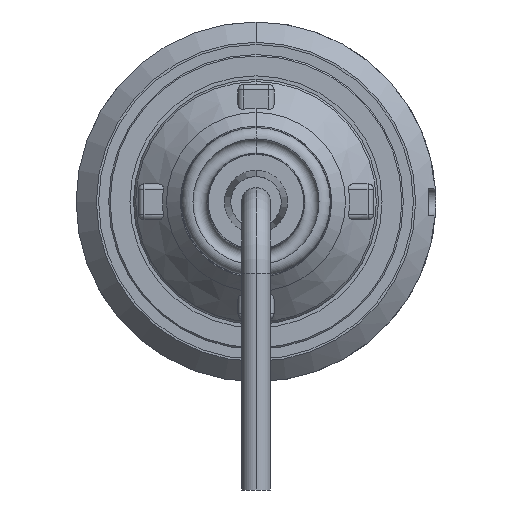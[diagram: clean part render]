
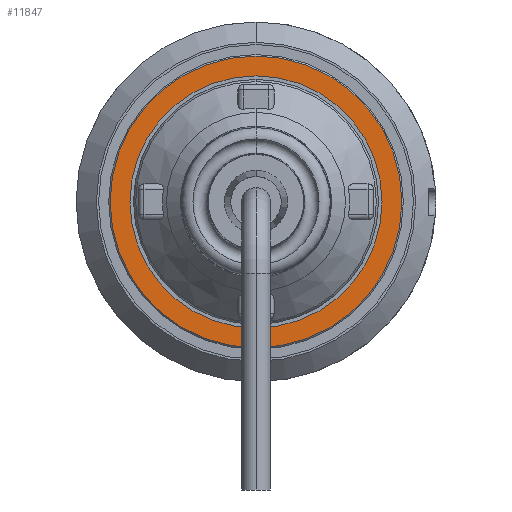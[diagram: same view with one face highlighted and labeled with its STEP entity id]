
A CAD part, front view. The second image highlights one B-rep face of the part: STEP entity #11847.
In plain terms, the highlighted planar face has unit normal (0, -1, 0).
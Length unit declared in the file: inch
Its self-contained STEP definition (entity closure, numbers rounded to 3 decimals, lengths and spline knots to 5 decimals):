
#249 = CARTESIAN_POINT ( 'NONE',  ( 0., 8.45, -2.025 ) ) ;
#317 = EDGE_LOOP ( 'NONE', ( #2771, #2492 ) ) ;
#650 = CIRCLE ( 'NONE', #3729, 1.75 ) ;
#1638 = FACE_BOUND ( 'NONE', #3378, .T. ) ;
#1927 = FACE_OUTER_BOUND ( 'NONE', #317, .T. ) ;
#2144 = EDGE_CURVE ( 'NONE', #6584, #8115, #3962, .T. ) ;
#2293 = CARTESIAN_POINT ( 'NONE',  ( 0., 8.45, 0. ) ) ;
#2423 = DIRECTION ( 'NONE',  ( 0., -1., 0. ) ) ;
#2492 = ORIENTED_EDGE ( 'NONE', *, *, #2144, .T. ) ;
#2771 = ORIENTED_EDGE ( 'NONE', *, *, #8370, .T. ) ;
#2951 = CIRCLE ( 'NONE', #11514, 2.025 ) ;
#3210 = DIRECTION ( 'NONE',  ( 0., 0., -1. ) ) ;
#3378 = EDGE_LOOP ( 'NONE', ( #8110, #5606 ) ) ;
#3449 = DIRECTION ( 'NONE',  ( 0., 0., -1. ) ) ;
#3729 = AXIS2_PLACEMENT_3D ( 'NONE', #2293, #8883, #3210 ) ;
#3962 = CIRCLE ( 'NONE', #4191, 2.025 ) ;
#4191 = AXIS2_PLACEMENT_3D ( 'NONE', #10581, #10219, #10179 ) ;
#5032 = EDGE_CURVE ( 'NONE', #11882, #11658, #650, .T. ) ;
#5322 = CARTESIAN_POINT ( 'NONE',  ( 1.75, 8.45, 0. ) ) ;
#5377 = DIRECTION ( 'NONE',  ( 0., -1., 0. ) ) ;
#5442 = CIRCLE ( 'NONE', #11558, 1.75 ) ;
#5606 = ORIENTED_EDGE ( 'NONE', *, *, #5032, .F. ) ;
#6235 = CARTESIAN_POINT ( 'NONE',  ( 0., 8.45, 2.025 ) ) ;
#6584 = VERTEX_POINT ( 'NONE', #249 ) ;
#8040 = CARTESIAN_POINT ( 'NONE',  ( 0., 8.45, 0. ) ) ;
#8110 = ORIENTED_EDGE ( 'NONE', *, *, #9939, .F. ) ;
#8115 = VERTEX_POINT ( 'NONE', #6235 ) ;
#8149 = PLANE ( 'NONE',  #8403 ) ;
#8370 = EDGE_CURVE ( 'NONE', #8115, #6584, #2951, .T. ) ;
#8403 = AXIS2_PLACEMENT_3D ( 'NONE', #5322, #9108, #3449 ) ;
#8606 = CARTESIAN_POINT ( 'NONE',  ( 0., 8.45, -1.75 ) ) ;
#8883 = DIRECTION ( 'NONE',  ( 0., -1., 0. ) ) ;
#9012 = DIRECTION ( 'NONE',  ( 0., 0., -1. ) ) ;
#9108 = DIRECTION ( 'NONE',  ( 0., -1., 0. ) ) ;
#9939 = EDGE_CURVE ( 'NONE', #11658, #11882, #5442, .T. ) ;
#10095 = CARTESIAN_POINT ( 'NONE',  ( 0., 8.45, 1.75 ) ) ;
#10179 = DIRECTION ( 'NONE',  ( 0., 0., -1. ) ) ;
#10219 = DIRECTION ( 'NONE',  ( 0., -1., 0. ) ) ;
#10581 = CARTESIAN_POINT ( 'NONE',  ( 0., 8.45, 0. ) ) ;
#11029 = CARTESIAN_POINT ( 'NONE',  ( 0., 8.45, 0. ) ) ;
#11514 = AXIS2_PLACEMENT_3D ( 'NONE', #8040, #2423, #9012 ) ;
#11558 = AXIS2_PLACEMENT_3D ( 'NONE', #11029, #5377, #11965 ) ;
#11658 = VERTEX_POINT ( 'NONE', #8606 ) ;
#11847 = ADVANCED_FACE ( 'NONE', ( #1927, #1638 ), #8149, .T. ) ;
#11882 = VERTEX_POINT ( 'NONE', #10095 ) ;
#11965 = DIRECTION ( 'NONE',  ( 0., 0., -1. ) ) ;
